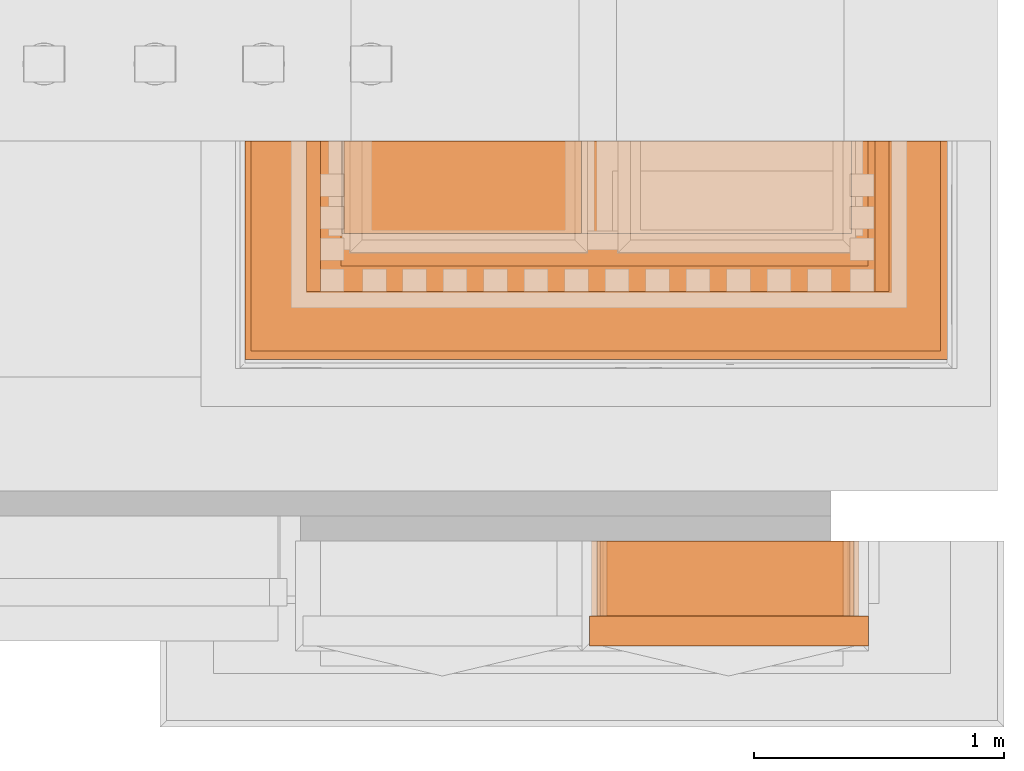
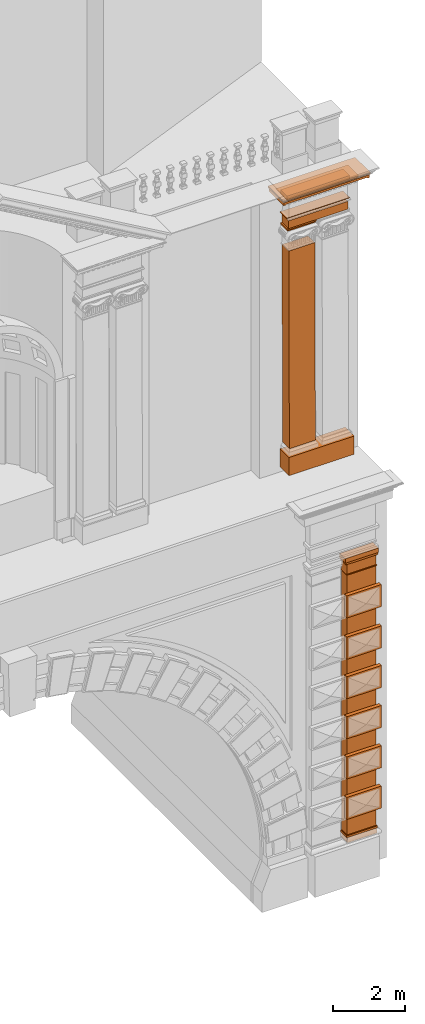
# One storey, part 12 of 44: 25 proxies.
"""IFC2X3 building model written with IfcOpenShell, lengths in metres."""

from ifc_helpers import new_model, entity, si_unit, converted_unit, derived_unit, direction, frame, frame_2d, origin, place, context, subcontext, project, spatial, polyline, circle_curve, parameter, trimmed, segment, composite_curve, rectangle, outline, extrude, material, element, save


model = new_model("IFC2X3")

# Units and contexts
model_context = context("Model", 3, precision=1e-05, world=origin(), true_north=direction((6.12303176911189e-17, 1.0)))
body_context = subcontext(model_context, "Body", "Model", "MODEL_VIEW")
ifc_project = project(units=[si_unit("LENGTHUNIT", "METRE"), si_unit("AREAUNIT", "SQUARE_METRE"), si_unit("VOLUMEUNIT", "CUBIC_METRE"), converted_unit("PLANEANGLEUNIT", "DEGREE", entity("IfcRatioMeasure", 0.0174532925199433), si_unit("PLANEANGLEUNIT", "RADIAN"), dimensions=[0, 0, 0, 0, 0, 0, 0]), si_unit("MASSUNIT", "GRAM", prefix="KILO"), derived_unit("MASSDENSITYUNIT", [(si_unit("MASSUNIT", "GRAM", prefix="KILO"), 1), (si_unit("LENGTHUNIT", "METRE"), -3)]), si_unit("TIMEUNIT", "SECOND"), si_unit("FREQUENCYUNIT", "HERTZ"), si_unit("THERMODYNAMICTEMPERATUREUNIT", "DEGREE_CELSIUS"), derived_unit("THERMALTRANSMITTANCEUNIT", [(si_unit("MASSUNIT", "GRAM", prefix="KILO"), 1), (si_unit("THERMODYNAMICTEMPERATUREUNIT", "KELVIN"), -1), (si_unit("TIMEUNIT", "SECOND"), -3)]), derived_unit("VOLUMETRICFLOWRATEUNIT", [(si_unit("LENGTHUNIT", "METRE"), 3), (si_unit("TIMEUNIT", "SECOND"), -1)]), si_unit("ELECTRICCURRENTUNIT", "AMPERE"), si_unit("ELECTRICVOLTAGEUNIT", "VOLT"), si_unit("POWERUNIT", "WATT"), si_unit("FORCEUNIT", "NEWTON", prefix="KILO"), si_unit("ILLUMINANCEUNIT", "LUX"), si_unit("LUMINOUSFLUXUNIT", "LUMEN"), si_unit("LUMINOUSINTENSITYUNIT", "CANDELA"), derived_unit("USERDEFINED", [(si_unit("MASSUNIT", "GRAM", prefix="KILO"), -1), (si_unit("LENGTHUNIT", "METRE"), -2), (si_unit("TIMEUNIT", "SECOND"), 3), (si_unit("LUMINOUSFLUXUNIT", "LUMEN"), 1)]), derived_unit("LINEARVELOCITYUNIT", [(si_unit("LENGTHUNIT", "METRE"), 1), (si_unit("TIMEUNIT", "SECOND"), -1)]), si_unit("PRESSUREUNIT", "PASCAL"), derived_unit("USERDEFINED", [(si_unit("LENGTHUNIT", "METRE"), -2), (si_unit("MASSUNIT", "GRAM", prefix="KILO"), 1), (si_unit("TIMEUNIT", "SECOND"), -2)])], contexts=[model_context])

# Site, building, storey
site_placement = place(None, origin())
site = spatial("IfcSite", under=ifc_project, at=site_placement, Name="Default", CompositionType="ELEMENT")
building_placement = place(site_placement, origin())
building = spatial("IfcBuilding", under=site, at=building_placement, CompositionType="ELEMENT")
storey_placement = place(building_placement, origin())
storey = spatial("IfcBuildingStorey", under=building, at=storey_placement, Name="Livello 1", CompositionType="ELEMENT", Elevation=0.0)

# Proxies
ifc_material_1 = material(Name="Travertino")
proxy_1_placement = place(storey_placement, frame((10.4329515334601, -0.67446749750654, 1.5459603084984)))
element("IfcBuildingElementProxy", 1, at=proxy_1_placement, inside=storey, material=ifc_material_1, Name="Stratigrafia", context=body_context, shape_type="SweptSolid", body=[
    extrude(rectangle(XDim=0.0671759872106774, YDim=0.34, at=frame_2d((6.93889390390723e-17, 0.0), x_axis=(0.0, 1.0))), frame((0.0, 0.17, 0.0335879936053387), z_axis=(1.0, 0.0, 0.0), x_axis=(0.0, 1.0, 0.0)), (0.0, 0.0, 1.0), 0.997732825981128),
])
proxy_2_placement = place(storey_placement, frame((10.4313396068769, -0.63446749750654, 1.61154102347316)))
element("IfcBuildingElementProxy", 2, at=proxy_2_placement, inside=storey, material=ifc_material_1, Name="Stratigrafia", context=body_context, shape_type="SweptSolid", body=[
    extrude(outline(composite_curve([segment(polyline([(-0.414101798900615, -6.28964733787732), (0.583646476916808, -6.28964733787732)]), True, "CONTINUOUS"), segment(trimmed(circle_curve(frame_2d((0.588542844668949, -6.25788414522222), x_axis=(-0.15231522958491, -0.988331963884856)), 0.0321383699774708), [parameter(287.512604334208)], [parameter(359.997827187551)], True, "PARAMETER"), False, "CONTINUOUS"), segment(polyline([(0.55677864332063, -6.26277396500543), (0.556778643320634, 2.54723294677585)]), True, "CONTINUOUS"), segment(trimmed(circle_curve(frame_2d((0.606382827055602, 2.53651033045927), x_axis=(-0.898230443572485, 0.439524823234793)), 0.0507498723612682), [parameter(1.63175686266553e-08)], [parameter(13.8759811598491)], True, "PARAMETER"), False, "CONTINUOUS"), segment(trimmed(circle_curve(frame_2d((0.606815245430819, 2.53629873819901), x_axis=(-0.80534091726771, 0.592811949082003)), 0.0512312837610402), [parameter(359.999999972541)], [parameter(10.2832406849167)], True, "PARAMETER"), False, "CONTINUOUS"), segment(trimmed(circle_curve(frame_2d((0.607357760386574, 2.53589939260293), x_axis=(-0.664653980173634, 0.747151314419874)), 0.0519049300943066), [parameter(359.999999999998)], [parameter(11.9874072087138)], True, "PARAMETER"), False, "CONTINUOUS"), segment(polyline([(0.572858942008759, 2.57468022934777), (0.572858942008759, 2.5776591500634)]), True, "CONTINUOUS"), segment(polyline([(0.572858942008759, 2.5776591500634), (-0.405712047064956, 2.5776591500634)]), True, "CONTINUOUS"), segment(polyline([(-0.405712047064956, 2.5776591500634), (-0.405712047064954, 2.57639329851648)]), True, "CONTINUOUS"), segment(trimmed(circle_curve(frame_2d((-0.438883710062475, 2.53588550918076), x_axis=(0.664836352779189, 0.746989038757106)), 0.0523568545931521), [parameter(359.999999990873)], [parameter(2.35586561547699)], True, "PARAMETER"), False, "CONTINUOUS"), segment(trimmed(circle_curve(frame_2d((-0.438573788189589, 2.53621466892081), x_axis=(0.805292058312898, 0.592878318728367)), 0.0519049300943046), [parameter(359.999999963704)], [parameter(11.9826852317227)], True, "PARAMETER"), False, "CONTINUOUS"), segment(trimmed(circle_curve(frame_2d((-0.438033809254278, 2.53661745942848), x_axis=(0.898200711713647, 0.439585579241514)), 0.0512312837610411), [parameter(1.65649394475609e-08)], [parameter(10.2793651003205)], True, "PARAMETER"), False, "CONTINUOUS"), segment(trimmed(circle_curve(frame_2d((-0.437602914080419, 2.53683216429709), x_axis=(0.954143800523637, 0.299348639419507)), 0.0507498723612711), [parameter(3.64581639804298e-08)], [parameter(8.65508183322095)], True, "PARAMETER"), False, "CONTINUOUS"), segment(trimmed(circle_curve(frame_2d((-0.437301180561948, 2.53692835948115), x_axis=(0.987346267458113, 0.158579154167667)), 0.0504331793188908), [parameter(357.78212283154)], [parameter(8.29239101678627)], True, "PARAMETER"), False, "CONTINUOUS"), segment(polyline([(-0.387233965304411, 2.54299297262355), (-0.387233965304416, -5.67040610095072)]), True, "CONTINUOUS"), segment(polyline([(-0.387233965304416, -5.67040610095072), (-0.387233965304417, -6.26277396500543)]), True, "CONTINUOUS"), segment(trimmed(circle_curve(frame_2d((-0.418998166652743, -6.25788414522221), x_axis=(0.152315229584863, -0.988331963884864)), 0.032138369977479), [parameter(0.00217281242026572)], [parameter(72.4873956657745)], True, "PARAMETER"), False, "CONTINUOUS")], self_intersect=False)), frame((0.585241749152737, 0.0, 6.29124261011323), z_axis=(0.0, 1.0, 0.0), x_axis=(-1.0, 0.0, 0.0)), (0.0, 0.0, 1.0), 0.3),
])
ifc_material_2 = material(Name="Piperno")
for number, where in (
    (3, (10.3903144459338, -0.75446749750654, 2.23237753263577)),
    (4, (10.3903144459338, -0.75446749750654, 3.61089686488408)),
    (5, (10.3903144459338, -0.75446749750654, 4.98055370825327)),
    (6, (10.3903144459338, -0.75446749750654, 6.3449740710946)),
    (7, (10.3903144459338, -0.75446749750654, 7.6966812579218)),
):
    element("IfcBuildingElementProxy", number, at=place(storey_placement, frame(where)), inside=storey, material=ifc_material_2, Name="Stratigrafia", context=body_context, shape_type="SweptSolid", body=[
        extrude(rectangle(XDim=0.756670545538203, YDim=0.12, at=frame_2d((0.0, 0.0), x_axis=(0.0, 1.0))), frame((0.0, 0.06, 0.378335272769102), z_axis=(1.0, 0.0, 0.0), x_axis=(0.0, 1.0, 0.0)), (0.0, 0.0, 1.0), 1.11440463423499),
    ])
proxy_3_placement = place(storey_placement, frame((10.3903144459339, -0.75446749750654, 9.10319346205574)))
element("IfcBuildingElementProxy", 8, at=proxy_3_placement, inside=storey, material=ifc_material_2, Name="Stratigrafia", context=body_context, shape_type="SweptSolid", body=[
    extrude(rectangle(XDim=0.756670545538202, YDim=0.12, at=frame_2d((0.0, 5.55111512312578e-16), x_axis=(0.0, 1.0))), frame((0.0, 0.06, 0.378335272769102), z_axis=(1.0, 0.0, 0.0), x_axis=(0.0, 1.0, 0.0)), (0.0, 0.0, 1.0), 1.11440463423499),
])
proxy_4_placement = place(storey_placement, frame((10.4458509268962, -0.654667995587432, 10.4804427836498)))
element("IfcBuildingElementProxy", 9, at=proxy_4_placement, inside=storey, material=ifc_material_1, Name="Stratigrafia", context=body_context, shape_type="SweptSolid", body=[
    extrude(rectangle(XDim=0.0231758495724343, YDim=0.320200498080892, at=frame_2d((-4.16333634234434e-17, 0.0), x_axis=(0.0, 1.0))), frame((0.0, 0.160100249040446, 0.0115879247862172), z_axis=(1.0, 0.0, 0.0), x_axis=(0.0, 1.0, 0.0)), (0.0, 0.0, 1.0), 0.976442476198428),
])
proxy_5_placement = place(storey_placement, frame((10.418387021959, -0.63446749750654, 10.5020233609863)))
element("IfcBuildingElementProxy", 10, at=proxy_5_placement, inside=storey, material=ifc_material_1, Name="Stratigrafia", context=body_context, shape_type="SweptSolid", body=[
    extrude(outline(composite_curve([segment(trimmed(circle_curve(frame_2d((-0.191302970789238, 0.529310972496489), x_axis=(-0.966047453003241, -0.258364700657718)), 0.0603691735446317), [parameter(2.03555499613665e-13)], [parameter(61.0495077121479)], True, "PARAMETER"), False, "CONTINUOUS"), segment(polyline([(-0.24962245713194, 0.513713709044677), (-0.251438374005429, -0.512827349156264)]), True, "CONTINUOUS"), segment(trimmed(circle_curve(frame_2d((-0.193174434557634, -0.528630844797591), x_axis=(-0.965127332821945, 0.261780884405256)), 0.0603691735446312), [parameter(298.950492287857)], [parameter(8.65110873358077e-13)], True, "PARAMETER"), False, "CONTINUOUS"), segment(polyline([(-0.20754864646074, -0.469997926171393), (0.0578943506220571, -0.470937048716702)]), True, "CONTINUOUS"), segment(trimmed(circle_curve(frame_2d((0.0498086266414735, -0.520717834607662), x_axis=(0.160325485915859, 0.987064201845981)), 0.0504331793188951), [parameter(351.707608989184)], [parameter(360.0)], True, "PARAMETER"), False, "CONTINUOUS"), segment(trimmed(circle_curve(frame_2d((0.0497118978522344, -0.521019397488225), x_axis=(0.301036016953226, 0.953612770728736)), 0.0507498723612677), [parameter(351.344918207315)], [parameter(359.999999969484)], True, "PARAMETER"), False, "CONTINUOUS"), segment(trimmed(circle_curve(frame_2d((0.0494964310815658, -0.52144991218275), x_axis=(0.441173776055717, 0.897421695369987)), 0.0512312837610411), [parameter(349.720634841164)], [parameter(2.35897924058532e-08)], True, "PARAMETER"), False, "CONTINUOUS"), segment(trimmed(circle_curve(frame_2d((0.0490926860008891, -0.521989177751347), x_axis=(0.594301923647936, 0.804242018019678)), 0.0519049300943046), [parameter(348.017314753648)], [parameter(359.999999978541)], True, "PARAMETER"), False, "CONTINUOUS"), segment(trimmed(circle_curve(frame_2d((0.0487629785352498, -0.522298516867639), x_axis=(0.748163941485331, 0.66351391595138)), 0.0523568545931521), [parameter(357.687391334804)], [parameter(359.99999999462)], True, "PARAMETER"), False, "CONTINUOUS"), segment(polyline([(0.089304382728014, -0.48916794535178), (0.0910344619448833, 0.48884893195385)]), True, "CONTINUOUS"), segment(trimmed(circle_curve(frame_2d((0.0506105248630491, 0.522122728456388), x_axis=(0.745811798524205, -0.666156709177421)), 0.0523568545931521), [parameter(5.38017541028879e-09)], [parameter(2.31260866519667)], True, "PARAMETER"), False, "CONTINUOUS"), segment(trimmed(circle_curve(frame_2d((0.0509391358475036, 0.521812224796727), x_axis=(0.591452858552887, -0.806339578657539)), 0.0519049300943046), [parameter(359.999999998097)], [parameter(11.9826852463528)], True, "PARAMETER"), False, "CONTINUOUS"), segment(trimmed(circle_curve(frame_2d((0.0513409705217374, 0.521271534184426), x_axis=(0.437996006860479, -0.898976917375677)), 0.0512312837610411), [parameter(6.6122968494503e-09)], [parameter(10.2793651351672)], True, "PARAMETER"), False, "CONTINUOUS"), segment(trimmed(circle_curve(frame_2d((0.0515549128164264, 0.5208402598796), x_axis=(0.297660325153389, -0.9546718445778)), 0.0507498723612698), [parameter(3.62487053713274e-08)], [parameter(8.65508182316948)], True, "PARAMETER"), False, "CONTINUOUS"), segment(trimmed(circle_curve(frame_2d((0.0516505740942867, 0.520538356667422), x_axis=(0.156832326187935, -0.987625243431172)), 0.0504331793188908), [parameter(2.54444374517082e-13)], [parameter(8.29239101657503)], True, "PARAMETER"), False, "CONTINUOUS"), segment(polyline([(0.0595601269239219, 0.470729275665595), (-0.205884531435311, 0.470729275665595)]), True, "CONTINUOUS")], self_intersect=False)), frame((0.514866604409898, 0.0, 0.0917648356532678), z_axis=(0.0, -1.0, 0.0), x_axis=(0.0017689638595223, 0.0, -0.999998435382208)), (0.0, 0.0, -1.0), 0.3),
])
proxy_6_placement = place(storey_placement, frame((10.4200239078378, -0.654667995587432, 10.8443190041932)))
element("IfcBuildingElementProxy", 11, at=proxy_6_placement, inside=storey, material=ifc_material_1, Name="Stratigrafia", context=body_context, shape_type="SweptSolid", body=[
    extrude(rectangle(XDim=0.0638603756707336, YDim=0.320200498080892, at=frame_2d((-4.16333634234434e-17, 0.0), x_axis=(0.0, 1.0))), frame((0.0, 0.160100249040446, 0.0319301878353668), z_axis=(1.0, 0.0, 0.0), x_axis=(0.0, 1.0, 0.0)), (0.0, 0.0, 1.0), 1.02650105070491),
])
proxy_7_placement = place(storey_placement, frame((10.3991861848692, -0.654667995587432, 10.908179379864)))
element("IfcBuildingElementProxy", 12, at=proxy_7_placement, inside=storey, material=ifc_material_1, Name="Stratigrafia", context=body_context, shape_type="SweptSolid", body=[
    extrude(rectangle(XDim=0.153075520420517, YDim=0.320200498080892, at=frame_2d((-4.16333634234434e-17, 0.0), x_axis=(0.0, 1.0))), frame((0.0, 0.160100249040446, 0.0765377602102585), z_axis=(1.0, 0.0, 0.0), x_axis=(0.0, 1.0, 0.0)), (0.0, 0.0, 1.0), 1.06834077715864),
])
proxy_8_placement = place(storey_placement, frame((10.4598027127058, -0.67446749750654, 1.36741802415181)))
element("IfcBuildingElementProxy", 13, at=proxy_8_placement, inside=storey, material=ifc_material_1, Name="Stratigrafia", context=body_context, shape_type="SweptSolid", body=[
    extrude(rectangle(XDim=0.178542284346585, YDim=0.34, at=frame_2d((6.93889390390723e-17, 0.0), x_axis=(0.0, 1.0))), frame((0.0, 0.17, 0.0892711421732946), z_axis=(1.0, 0.0, 0.0), x_axis=(0.0, 1.0, 0.0)), (0.0, 0.0, 1.0), 0.944012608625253),
])
proxy_9_placement = place(storey_placement, frame((9.39694788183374, 0.763372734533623, 13.3835683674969)))
element("IfcBuildingElementProxy", 14, at=proxy_9_placement, inside=storey, material=ifc_material_2, Name="Stratigrafia", context=body_context, shape_type="SweptSolid", body=[
    extrude(rectangle(XDim=0.620950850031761, YDim=0.5, at=frame_2d((0.0, 0.0), x_axis=(0.0, 1.0))), frame((0.0, 0.25, 0.310475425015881), z_axis=(1.0, 0.0, 0.0), x_axis=(0.0, 1.0, 0.0)), (0.0, 0.0, 1.0), 2.1056955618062),
])
proxy_10_placement = place(storey_placement, frame((9.46453992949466, 0.883372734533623, 14.2048135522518)))
element("IfcBuildingElementProxy", 15, at=proxy_10_placement, inside=storey, material=ifc_material_2, Name="Stratigrafia", context=body_context, shape_type="SweptSolid", body=[
    extrude(rectangle(XDim=6.74573124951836, YDim=0.38, at=frame_2d((-1.2490009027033e-16, 0.0), x_axis=(0.0, 1.0))), frame((0.00875481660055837, 0.19, 3.37285426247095), z_axis=(0.999996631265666, 0.0, 0.00259566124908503), x_axis=(0.0, 1.0, 0.0)), (0.0, -0.00259566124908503, 0.999996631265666), 0.838920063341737),
])
proxy_11_placement = place(storey_placement, frame((9.40996790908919, 0.893372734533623, 21.6252055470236)))
element("IfcBuildingElementProxy", 16, at=proxy_11_placement, inside=storey, Name="Stratigrafia", context=body_context, shape_type="SweptSolid", body=[
    extrude(outline(polyline([(-0.44415894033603, -0.0175491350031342), (0.448323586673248, -0.0175491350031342), (0.472017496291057, 0.0175491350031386), (-0.476182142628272, 0.0175491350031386), (-0.44415894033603, -0.0175491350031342)])), frame((0.472017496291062, 0.0, 0.0175491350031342), z_axis=(0.0, 1.0, 0.0), x_axis=(-1.0, 0.0, 0.0)), (0.0, 0.0, 1.0), 0.37),
])
proxy_12_placement = place(storey_placement, frame((9.40996790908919, 0.893372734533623, 21.6603038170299)))
element("IfcBuildingElementProxy", 17, at=proxy_12_placement, inside=storey, Name="Stratigrafia", context=body_context, shape_type="SweptSolid", body=[
    extrude(rectangle(XDim=0.0459747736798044, YDim=0.37, at=frame_2d((-6.93889390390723e-17, 0.0), x_axis=(0.0, 1.0))), frame((0.0, 0.185, 0.0229873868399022), z_axis=(1.0, 0.0, 0.0), x_axis=(0.0, 1.0, 0.0)), (0.0, 0.0, 1.0), 0.948246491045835),
])
proxy_13_placement = place(storey_placement, frame((9.46632481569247, 0.893372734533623, 21.7062785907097)))
element("IfcBuildingElementProxy", 18, at=proxy_13_placement, inside=storey, material=ifc_material_2, Name="Stratigrafia", context=body_context, shape_type="SweptSolid", body=[
    extrude(rectangle(XDim=0.26847379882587, YDim=0.37, at=frame_2d((-6.93889390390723e-17, -2.16493489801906e-15), x_axis=(0.0, 1.0))), frame((0.0, 0.185, 0.134236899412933), z_axis=(1.0, 0.0, 0.0), x_axis=(0.0, 1.0, 0.0)), (0.0, 0.0, 1.0), 1.90592544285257),
])
proxy_14_placement = place(storey_placement, frame((9.40127870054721, 0.893372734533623, 22.0644456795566)))
element("IfcBuildingElementProxy", 19, at=proxy_14_placement, inside=storey, material=ifc_material_2, Name="Stratigrafia", context=body_context, shape_type="SweptSolid", body=[
    extrude(rectangle(XDim=0.0229883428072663, YDim=0.37, at=frame_2d((-6.93889390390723e-17, 0.0), x_axis=(0.0, 1.0))), frame((0.0, 0.185, 0.0114941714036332), z_axis=(1.0, 0.0, 0.0), x_axis=(0.0, 1.0, 0.0)), (0.0, 0.0, 1.0), 2.03498877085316),
])
proxy_15_placement = place(storey_placement, frame((9.01293610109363, 0.390957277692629, 23.0441156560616)))
element("IfcBuildingElementProxy", 20, at=proxy_15_placement, inside=storey, material=ifc_material_2, Name="Stratigrafia", context=body_context, shape_type="SweptSolid", body=[
    extrude(rectangle(XDim=0.0363925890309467, YDim=0.872415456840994, at=frame_2d((0.0, 0.0), x_axis=(0.0, 1.0))), frame((0.0, 0.436207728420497, 0.0181962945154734), z_axis=(1.0, 0.0, 0.0), x_axis=(0.0, 1.0, 0.0)), (0.0, 0.0, 1.0), 2.80857274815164),
])
proxy_16_placement = place(storey_placement, frame((9.03747641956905, 0.423372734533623, 22.9183541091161)))
element("IfcBuildingElementProxy", 21, at=proxy_16_placement, inside=storey, material=ifc_material_2, Name="Stratigrafia", context=body_context, shape_type="SweptSolid", body=[
    extrude(outline(composite_curve([segment(polyline([(-1.37464440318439, -0.0958582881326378), (1.38110087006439, -0.0958582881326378)]), True, "CONTINUOUS"), segment(polyline([(1.38110087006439, -0.0958582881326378), (1.38110087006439, 0.0283079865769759)]), True, "CONTINUOUS"), segment(polyline([(1.38110087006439, 0.0283079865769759), (1.3399566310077, 0.028307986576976)]), True, "CONTINUOUS"), segment(trimmed(circle_curve(frame_2d((1.40168375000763, -0.130507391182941), x_axis=(-0.434562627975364, 0.900641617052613)), 0.170389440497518), [parameter(355.482252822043)], [parameter(9.6688862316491e-12)], True, "PARAMETER"), True, "CONTINUOUS"), segment(trimmed(circle_curve(frame_2d((1.36418086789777, -0.0568755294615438), x_axis=(-0.665091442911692, 0.746761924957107)), 0.0877941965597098), [parameter(342.907043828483)], [parameter(359.999999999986)], True, "PARAMETER"), True, "CONTINUOUS"), segment(trimmed(circle_curve(frame_2d((1.33490071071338, -0.0221742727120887), x_axis=(-0.774172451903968, 0.63297473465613)), 0.0424240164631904), [parameter(352.599342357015)], [parameter(359.999999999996)], True, "PARAMETER"), True, "CONTINUOUS"), segment(polyline([(1.30205720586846, 0.00467905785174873), (-1.30619283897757, 0.00470999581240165)]), True, "CONTINUOUS"), segment(trimmed(circle_curve(frame_2d((-1.33387887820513, -0.0106768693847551), x_axis=(0.676146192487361, 0.736767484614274)), 0.0316744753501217), [parameter(341.606890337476)], [parameter(359.999999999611)], True, "PARAMETER"), True, "CONTINUOUS"), segment(trimmed(circle_curve(frame_2d((-1.36485015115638, -0.0461607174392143), x_axis=(0.41621296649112, 0.909267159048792)), 0.0787676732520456), [parameter(342.906245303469)], [parameter(359.999999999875)], True, "PARAMETER"), True, "CONTINUOUS"), segment(trimmed(circle_curve(frame_2d((-1.39381712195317, -0.102032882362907), x_axis=(0.397147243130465, 0.917754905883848)), 0.141660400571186), [parameter(357.556786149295)], [parameter(1.52666624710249e-13)], True, "PARAMETER"), True, "CONTINUOUS"), segment(polyline([(-1.33755708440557, 0.02797664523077), (-1.37472148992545, 0.0279766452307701)]), True, "CONTINUOUS"), segment(polyline([(-1.37472148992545, 0.0279766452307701), (-1.37464440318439, -0.0958582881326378)]), True, "CONTINUOUS")], self_intersect=False)), frame((1.37472148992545, 0.0, 0.0299032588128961), z_axis=(0.0, 1.0, 0.0), x_axis=(1.0, 0.0, 0.0)), (0.0, 0.0, 1.0), 0.84),
])
proxy_17_placement = place(storey_placement, frame((9.25732364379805, 0.661139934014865, 22.8533237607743)))
element("IfcBuildingElementProxy", 22, at=proxy_17_placement, inside=storey, material=ifc_material_2, Name="Stratigrafia", context=body_context, shape_type="SweptSolid", body=[
    extrude(outline(composite_curve([segment(trimmed(circle_curve(frame_2d((1.0753705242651, 0.16538884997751), x_axis=(1.0, 0.0)), 0.0768787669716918), [parameter(292.775176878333)], [parameter(4.73266536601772e-12)], True, "PARAMETER"), True, "CONTINUOUS"), segment(polyline([(1.15224929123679, 0.165388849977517), (-1.15968712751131, -0.100785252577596)]), True, "CONTINUOUS"), segment(trimmed(circle_curve(frame_2d((-1.08481975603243, -0.0833146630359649), x_axis=(-0.973836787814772, -0.227248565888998)), 0.0768787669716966), [parameter(359.999999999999)], [parameter(67.2248231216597)], True, "PARAMETER"), True, "CONTINUOUS"), segment(polyline([(-1.09769370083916, -0.159107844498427), (1.10513153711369, 0.0945042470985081)]), True, "CONTINUOUS")], self_intersect=False)), frame((1.16519944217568, 0.0, 0.0341104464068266), z_axis=(0.0, 1.0, 0.0), x_axis=(-0.993437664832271, 0.0, -0.114374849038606)), (0.0, 0.0, 1.0), 0.602232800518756),
])
proxy_18_placement = place(storey_placement, frame((9.31439690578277, 0.661139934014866, 22.8303610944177)))
element("IfcBuildingElementProxy", 23, at=proxy_18_placement, inside=storey, material=ifc_material_2, Name="Stratigrafia", context=body_context, shape_type="SweptSolid", body=[
    extrude(rectangle(XDim=0.0245579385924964, YDim=0.602232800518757, at=frame_2d((5.55111512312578e-17, -2.16580225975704e-15), x_axis=(0.0, 1.0))), frame((0.0, 0.301116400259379, 0.0122789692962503), z_axis=(1.0, 0.0, 0.0), x_axis=(0.0, 1.0, 0.0)), (0.0, 0.0, 1.0), 2.21681438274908),
])
proxy_19_placement = place(storey_placement, frame((9.40957888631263, 0.893372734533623, 22.7044456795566)))
element("IfcBuildingElementProxy", 24, at=proxy_19_placement, inside=storey, material=ifc_material_2, Name="Stratigrafia", context=body_context, shape_type="SweptSolid", body=[
    extrude(rectangle(XDim=0.125915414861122, YDim=0.369999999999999, at=frame_2d((-6.93889390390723e-17, -2.17187379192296e-15), x_axis=(0.0, 1.0))), frame((0.0, 0.185, 0.0629577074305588), z_axis=(1.0, 0.0, 0.0), x_axis=(0.0, 1.0, 0.0)), (0.0, 0.0, 1.0), 2.02771748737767),
])
proxy_20_placement = place(storey_placement, frame((9.01293610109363, 0.391034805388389, 23.0805082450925)))
element("IfcBuildingElementProxy", 25, at=proxy_20_placement, inside=storey, material=ifc_material_2, Name="Stratigrafia", context=body_context, shape_type="SweptSolid", body=[
    extrude(rectangle(XDim=0.0172851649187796, YDim=0.872337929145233, at=frame_2d((5.55111512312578e-17, 2.16580225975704e-15), x_axis=(0.0, 1.0))), frame((0.0, 0.436168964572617, 0.00864258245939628), z_axis=(1.0, 0.0, 0.0), x_axis=(0.0, -1.0, 0.0)), (0.0, 0.0, 1.0), 2.80849522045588),
])

save(model, "model.ifc")
